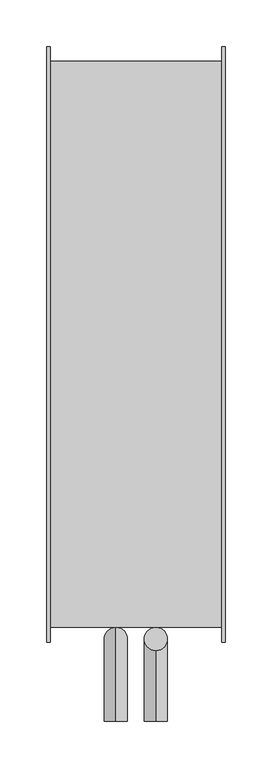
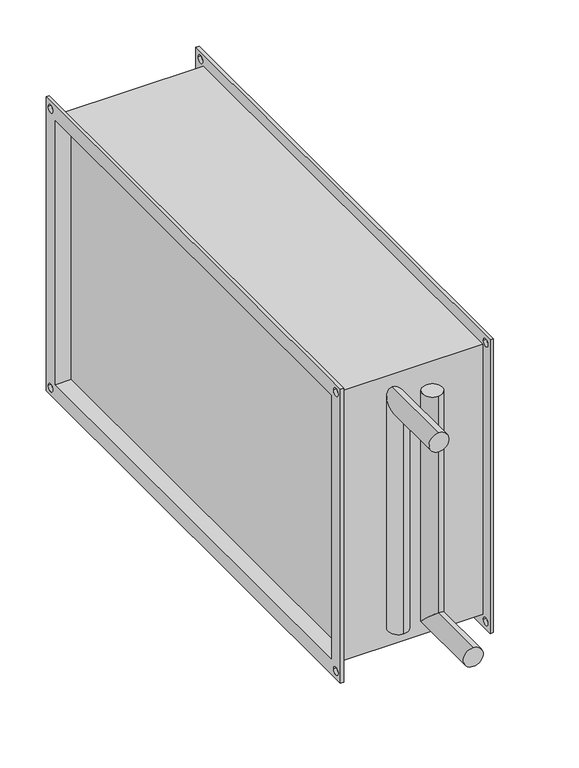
"""IFC4 building model written with IfcOpenShell, lengths in millimetres: proxy geometry, СВ_ВоздухонагревательВодяной_КанальныйПрямоугольный_200-1000_SPH-W : SPH-W-600x350/3."""

import ifcopenshell
import ifcopenshell.guid

model = None  # the IFC model being written
_history = None  # IfcOwnerHistory: only IFC2X3 demands one
_inside = {}  # id of a spatial element -> (the spatial element, [elements in it])
_under = {}  # id of a project, library or spatial element -> (it, [spatial elements below it])
_declared = {}  # id of a project -> (the project, [libraries it declares])
_typed = {}  # id of a type object -> (the type object, [elements of that type])
_made_of = {}  # id of a material, layer set ... -> (it, [elements and type objects made of it])


def new_model(schema):
    """Start an empty IFC model of exactly this schema.

    Asked for "IFC4X3", IfcOpenShell would pick the latest addendum, in which some entities
    have other attributes; the version numbers below select the first issue.
    IFC2X3 requires an IfcOwnerHistory on every rooted entity: one is made here for all.
    """
    global model, _history
    if schema == "IFC4X3":
        model = ifcopenshell.file(schema_version=(4, 3, 0, 0))
    else:
        model = ifcopenshell.file(schema=schema)
    _inside.clear()
    _under.clear()
    _declared.clear()
    _typed.clear()
    _made_of.clear()
    _history = None
    if model.schema == "IFC2X3":
        org = make("IfcOrganization", Name="unknown")
        user = make(
            "IfcPersonAndOrganization",
            ThePerson=make("IfcPerson", FamilyName="unknown"),
            TheOrganization=org,
        )
        app = make(
            "IfcApplication",
            ApplicationDeveloper=org,
            Version="unknown",
            ApplicationFullName="unknown",
            ApplicationIdentifier="unknown",
        )
        _history = make(
            "IfcOwnerHistory",
            OwningUser=user,
            OwningApplication=app,
            ChangeAction="ADDED",
            CreationDate=0,
        )
    return model


def make(cls, **values):
    """One entity of the class cls with the attributes given. An attribute that is None is left unset."""
    return model.create_entity(
        cls, **{name: value for name, value in values.items() if value is not None}
    )


def rooted(cls, **values):
    """An entity with a GlobalId (a new one), such as an element, a storey or a relation."""
    return make(cls, GlobalId=ifcopenshell.guid.new(), OwnerHistory=_history, **values)


def si_unit(unit_type, name, prefix=None):
    """IfcSIUnit, for example si_unit("LENGTHUNIT", "METRE", prefix="MILLI")."""
    return make("IfcSIUnit", UnitType=unit_type, Prefix=prefix, Name=name)


def assignment(units):
    """IfcUnitAssignment: the units of a project."""
    return None if units is None else make("IfcUnitAssignment", Units=units)


def point(xyz):
    """IfcCartesianPoint."""
    return None if xyz is None else make("IfcCartesianPoint", Coordinates=xyz)


def direction(xyz):
    """IfcDirection."""
    return None if xyz is None else make("IfcDirection", DirectionRatios=xyz)


def frame(location, z_axis=None, x_axis=None):
    """IfcAxis2Placement3D, a coordinate frame: its origin and axes. An axis left out is left unset."""
    return make(
        "IfcAxis2Placement3D",
        Location=point(location),
        Axis=direction(z_axis),
        RefDirection=direction(x_axis),
    )


def origin():
    """The frame at (0, 0, 0) with its axes left unset."""
    return frame((0.0, 0.0, 0.0))


def place(relative_to, where):
    """IfcLocalPlacement: puts the frame where relative to a parent placement (None: the world)."""
    return make(
        "IfcLocalPlacement", PlacementRelTo=relative_to, RelativePlacement=where
    )


def context(
    kind, dimensions, precision=None, world=None, true_north=None, identifier=None
):
    """IfcGeometricRepresentationContext, for example the 3D "Model" context."""
    return make(
        "IfcGeometricRepresentationContext",
        ContextIdentifier=identifier,
        ContextType=kind,
        CoordinateSpaceDimension=dimensions,
        Precision=precision,
        WorldCoordinateSystem=world,
        TrueNorth=true_north,
    )


def project(units=None, contexts=None):
    """IfcProject with its units and contexts."""
    return rooted(
        "IfcProject",
        Name="project",
        RepresentationContexts=contexts,
        UnitsInContext=assignment(units),
    )


def spatial(cls, under=None, at=None, **own):
    """A site, building, storey or space (cls), placed at a placement, below another one or the project."""
    s = rooted(cls, ObjectPlacement=at, **own)
    if under is not None:
        _under.setdefault(under.id(), (under, []))[1].append(s)
    return s


def polyline(points):
    """IfcPolyline through the points."""
    return make("IfcPolyline", Points=[point(p) for p in points])


def circle_curve(where, radius):
    """IfcCircle in the frame where."""
    return make("IfcCircle", Position=where, Radius=radius)


def ellipse_curve(where, semi_axis1, semi_axis2):
    """IfcEllipse in the frame where."""
    return make(
        "IfcEllipse", Position=where, SemiAxis1=semi_axis1, SemiAxis2=semi_axis2
    )


def shape(context_of_items, identifier, shape_type, items):
    """IfcShapeRepresentation: the items that make up one representation, for example the "Body"."""
    return make(
        "IfcShapeRepresentation",
        ContextOfItems=context_of_items,
        RepresentationIdentifier=identifier,
        RepresentationType=shape_type,
        Items=items,
    )


def source(mapping_origin, context_of_items, identifier, shape_type, items):
    """IfcRepresentationMap: a shape defined once, which mapped items show again and again."""
    return make(
        "IfcRepresentationMap",
        MappingOrigin=mapping_origin,
        MappedRepresentation=shape(context_of_items, identifier, shape_type, items),
    )


def transform(
    local_origin,
    x_axis=None,
    y_axis=None,
    z_axis=None,
    scale=None,
    scale2=None,
    scale3=None,
    uniform=True,
):
    """IfcCartesianTransformationOperator3D, or its non-uniform kind. x_axis, y_axis, z_axis: its Axis1, 2, 3."""
    if uniform:
        return make(
            "IfcCartesianTransformationOperator3D",
            Axis1=direction(x_axis),
            Axis2=direction(y_axis),
            LocalOrigin=point(local_origin),
            Scale=scale,
            Axis3=direction(z_axis),
        )
    return make(
        "IfcCartesianTransformationOperator3DnonUniform",
        Axis1=direction(x_axis),
        Axis2=direction(y_axis),
        LocalOrigin=point(local_origin),
        Scale=scale,
        Axis3=direction(z_axis),
        Scale2=scale2,
        Scale3=scale3,
    )


def mapped(mapping_source, mapping_target):
    """IfcMappedItem: shows the shape of a source again, moved by a transform."""
    return make(
        "IfcMappedItem", MappingSource=mapping_source, MappingTarget=mapping_target
    )


def made_of(thing, what):
    """Note that an element or type object is made of a material, layer set ...; save() writes the relation."""
    if what is not None:
        _made_of.setdefault(what.id(), (what, []))[1].append(thing)
    return thing


def element(
    cls,
    number,
    at=None,
    inside=None,
    cuts=None,
    type_object=None,
    material=None,
    context=None,
    identifier="Body",
    shape_type=None,
    held_by="IfcProductDefinitionShape",
    body=None,
    shapes=None,
    **own,
):
    """One element of the class cls, such as IfcWall. Its Tag is "e" and its number.

    at: its placement. inside: the storey or other place that contains it. cuts: it is an
    opening in that element (IfcRelVoidsElement). A single representation is given by context,
    identifier, shape_type and body (its items); several are given by shapes. held_by: the class
    of the entity that holds the representations. save() writes the other relations.
    """
    e = rooted(cls, Tag="e%d" % number, ObjectPlacement=at, **own)
    if body is not None:
        shapes = [shape(context, identifier, shape_type, body)]
    if shapes is not None:
        e.Representation = make(held_by, Representations=shapes)
    if inside is not None:
        _inside.setdefault(inside.id(), (inside, []))[1].append(e)
    if cuts is not None:
        rooted(
            "IfcRelVoidsElement", RelatingBuildingElement=cuts, RelatedOpeningElement=e
        )
    if type_object is not None:
        _typed.setdefault(type_object.id(), (type_object, []))[1].append(e)
    return made_of(e, material)


def aggregate(whole, parts):
    """IfcRelAggregates: a whole, such as a stair, and the parts it consists of."""
    return rooted("IfcRelAggregates", RelatingObject=whole, RelatedObjects=parts)


def save(model, path):
    """Write the relations noted so far, then the file.

    IfcRelAggregates (storeys below a building ...), IfcRelContainedInSpatialStructure (elements
    in a storey), IfcRelDefinesByType, IfcRelAssociatesMaterial and IfcRelDeclares: one each for
    every whole, place, type object, material and project.
    """
    for whole, parts in _under.values():
        aggregate(whole, parts)
    for where, things in _inside.values():
        rooted(
            "IfcRelContainedInSpatialStructure",
            RelatedElements=things,
            RelatingStructure=where,
        )
    for kind, things in _typed.values():
        rooted("IfcRelDefinesByType", RelatedObjects=things, RelatingType=kind)
    for what, things in _made_of.values():
        rooted("IfcRelAssociatesMaterial", RelatedObjects=things, RelatingMaterial=what)
    for by, libraries in _declared.values():
        rooted("IfcRelDeclares", RelatingContext=by, RelatedDefinitions=libraries)
    model.write(path)


def plane_surface(at):
    """IfcPlane: the flat surface through the origin of the frame at, square to its z axis."""
    return make("IfcPlane", Position=at)


def cylinder_surface(at, radius):
    """IfcCylindricalSurface: all points at the distance radius from the z axis of the frame at."""
    return make("IfcCylindricalSurface", Position=at, Radius=radius)


def revolved_surface(curve, axis_point, axis_direction):
    """IfcSurfaceOfRevolution: the curve turned about the line through axis_point along axis_direction."""
    return make(
        "IfcSurfaceOfRevolution",
        SweptCurve=make("IfcArbitraryOpenProfileDef", ProfileType="CURVE", Curve=curve),
        AxisPosition=make("IfcAxis1Placement", Location=point(axis_point), Axis=direction(axis_direction)),
    )


def advanced_brep(points, edges, surfaces, faces):
    """IfcAdvancedBrep: a solid bounded by faces that lie on surfaces and meet in shared edges.

    An edge is (start, end): straight between two places in points (the first is 0);
    or (start, end, curve); or (start, end, curve, False) where it runs against its curve.
    A face is (place in surfaces, loops), or (place, loops, False) where it looks against
    its surface's normal. A loop lists edges by number (the first is 1), with a minus sign
    where the edge is run from its end to its start. The first loop is the outer one.
    """
    corners = [point(p) for p in points]
    vertices = [make("IfcVertexPoint", VertexGeometry=c) for c in corners]
    made = []
    for start, end, *more in edges:
        made.append(
            make(
                "IfcEdgeCurve",
                EdgeStart=vertices[start],
                EdgeEnd=vertices[end],
                EdgeGeometry=more[0] if more else make("IfcPolyline", Points=[corners[start], corners[end]]),
                SameSense=more[1] if len(more) > 1 else True,
            )
        )
    hull = []
    for where, loops, *sense in faces:
        bounds = []
        for j, loop in enumerate(loops):
            ring = [make("IfcOrientedEdge", EdgeElement=made[abs(k) - 1], Orientation=k > 0) for k in loop]
            bounds.append(
                make(
                    "IfcFaceOuterBound" if j == 0 else "IfcFaceBound",
                    Bound=make("IfcEdgeLoop", EdgeList=ring),
                    Orientation=True,
                )
            )
        hull.append(make("IfcAdvancedFace", Bounds=bounds, FaceSurface=surfaces[where], SameSense=sense[0] if sense else True))
    return make("IfcAdvancedBrep", Outer=make("IfcClosedShell", CfsFaces=hull))


def mechanical_equipment_64b5c840(model_context):
    return source(origin(), model_context, "Body", "AdvancedBrep", [
        advanced_brep(
        [(21.5, -304.0, 150.0), (21.5, -329.0, 150.0), (21.5, -304.0, -162.5), (21.5, -329.0, -137.5), (21.5, -405.0, -162.5), (21.5, -405.0, -137.5)],
        [
            (0, 1, circle_curve(frame((21.5, -316.5, 150.0), z_axis=(0.0, 0.0, 1.0), x_axis=(0.0, -1.0, 0.0)), 12.5)),
            (1, 0, circle_curve(frame((21.5, -316.5, 150.0), z_axis=(0.0, 0.0, 1.0), x_axis=(0.0, -1.0, 0.0)), 12.5)),
            (0, 2),
            (2, 3, ellipse_curve(frame((21.5, -316.5, -150.0), z_axis=(0.0, 0.7071067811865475, 0.7071067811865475), x_axis=(0.0, -0.7071067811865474, 0.7071067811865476)), 17.6776695, 12.5)),
            (3, 1),
            (3, 2, ellipse_curve(frame((21.5, -316.5, -150.0), z_axis=(0.0, 0.7071067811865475, 0.7071067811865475), x_axis=(0.0, -0.7071067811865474, 0.7071067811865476)), 17.6776695, 12.5)),
            (4, 5, circle_curve(frame((21.5, -405.0, -150.0), z_axis=(0.0, -1.0, 0.0), x_axis=(0.0, 0.0, 1.0)), 12.5)),
            (5, 4, circle_curve(frame((21.5, -405.0, -150.0), z_axis=(0.0, -1.0, 0.0), x_axis=(0.0, 0.0, 1.0)), 12.5)),
            (2, 4),
            (5, 3),
        ],
        [
            plane_surface(frame((21.5, -316.5, 150.0), z_axis=(0.0, 0.0, 1.0), x_axis=(-1.0, 0.0, 0.0))),
            cylinder_surface(frame((21.5, -316.5, 150.0), z_axis=(0.0, 0.0, 1.0), x_axis=(0.0, -1.0, 0.0)), 12.5),
            plane_surface(frame((21.5, -405.0, -150.0), z_axis=(0.0, -1.0, 0.0), x_axis=(-1.0, 0.0, 0.0))),
            cylinder_surface(frame((21.5, -316.5, -150.0), z_axis=(0.0, 1.0, 0.0), x_axis=(0.0, 0.0, 1.0)), 12.5),
        ],
        [
            (0, [[1, 2]]),
            (1, [[-1, 3, 4, 5]]),
            (1, [[-2, -5, 6, -3]]),
            (2, [[7, 8]]),
            (3, [[-4, 9, -8, 10]]),
            (3, [[-6, -10, -7, -9]]),
        ],
    ),
        advanced_brep(
        [(-21.5, -304.0, -150.0), (-21.5, -329.0, -150.0), (-21.5, -304.0, 162.5), (-21.5, -329.0, 137.5), (-21.5, -405.0, 162.5), (-21.5, -405.0, 137.5)],
        [
            (0, 1, circle_curve(frame((-21.5, -316.5, -150.0), z_axis=(0.0, 0.0, -1.0), x_axis=(0.0, -1.0, 0.0)), 12.5)),
            (1, 0, circle_curve(frame((-21.5, -316.5, -150.0), z_axis=(0.0, 0.0, -1.0), x_axis=(0.0, -1.0, 0.0)), 12.5)),
            (0, 2),
            (2, 3, ellipse_curve(frame((-21.5, -316.5, 150.0), z_axis=(0.0, 0.7071067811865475, -0.7071067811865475), x_axis=(0.0, -0.7071067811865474, -0.7071067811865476)), 17.6776695, 12.5)),
            (3, 1),
            (3, 2, ellipse_curve(frame((-21.5, -316.5, 150.0), z_axis=(0.0, 0.7071067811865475, -0.7071067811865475), x_axis=(0.0, -0.7071067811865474, -0.7071067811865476)), 17.6776695, 12.5)),
            (4, 5, circle_curve(frame((-21.5, -405.0, 150.0), z_axis=(0.0, -1.0, 0.0), x_axis=(0.0, 0.0, -1.0)), 12.5)),
            (5, 4, circle_curve(frame((-21.5, -405.0, 150.0), z_axis=(0.0, -1.0, 0.0), x_axis=(0.0, 0.0, -1.0)), 12.5)),
            (2, 4),
            (5, 3),
        ],
        [
            plane_surface(frame((-21.5, -316.5, -150.0), z_axis=(0.0, 0.0, -1.0), x_axis=(1.0, 0.0, 0.0))),
            cylinder_surface(frame((-21.5, -316.5, -150.0), z_axis=(0.0, 0.0, -1.0), x_axis=(0.0, -1.0, 0.0)), 12.5),
            plane_surface(frame((-21.5, -405.0, 150.0), z_axis=(0.0, -1.0, 0.0), x_axis=(1.0, 0.0, 0.0))),
            cylinder_surface(frame((-21.5, -316.5, 150.0), z_axis=(0.0, 1.0, 0.0), x_axis=(0.0, 0.0, -1.0)), 12.5),
        ],
        [
            (0, [[1, 2]]),
            (1, [[-1, 3, 4, 5]]),
            (1, [[-2, -5, 6, -3]]),
            (2, [[7, 8]]),
            (3, [[-4, 9, -8, 10]]),
            (3, [[-6, -10, -7, -9]]),
        ],
    ),
        advanced_brep(
        [(-92.0, -304.0, 179.0), (-92.0, -304.0, -179.0), (92.0, -304.0, -179.0), (92.0, -304.0, 179.0), (-92.0, 304.0, -179.0), (92.0, 304.0, -179.0), (-92.0, 304.0, 179.0), (92.0, 304.0, 179.0), (76.0, 300.0, -175.0), (76.0, 300.0, 175.0), (76.0, -300.0, 175.0), (76.0, -300.0, -175.0), (-76.0, -300.0, 175.0), (-76.0, 300.0, 175.0), (-76.0, 300.0, -175.0), (-76.0, -300.0, -175.0), (-96.0, -320.0, 195.0), (-96.0, 320.0, 195.0), (-96.0, 320.0, -195.0), (-96.0, -320.0, -195.0), (-96.0, -300.0, 175.0), (-96.0, -300.0, -175.0), (-96.0, 300.0, -175.0), (-96.0, 300.0, 175.0), (-96.0, 305.0, 185.0), (-96.0, 315.0, 185.0), (-96.0, -315.0, 185.0), (-96.0, -305.0, 185.0), (-96.0, -315.0, -185.0), (-96.0, -305.0, -185.0), (-96.0, 305.0, -185.0), (-96.0, 315.0, -185.0), (-92.0, -320.0, 195.0), (-92.0, -320.0, -195.0), (-92.0, 320.0, -195.0), (-92.0, 320.0, 195.0), (-92.0, 315.0, 185.0), (-92.0, 305.0, 185.0), (-92.0, -305.0, 185.0), (-92.0, -315.0, 185.0), (-92.0, -305.0, -185.0), (-92.0, -315.0, -185.0), (-92.0, 315.0, -185.0), (-92.0, 305.0, -185.0), (92.0, 320.0, 195.0), (92.0, 320.0, -195.0), (92.0, -320.0, -195.0), (92.0, -320.0, 195.0), (92.0, 305.0, 185.0), (92.0, 315.0, 185.0), (92.0, -315.0, 185.0), (92.0, -305.0, 185.0), (92.0, -315.0, -185.0), (92.0, -305.0, -185.0), (92.0, 305.0, -185.0), (92.0, 315.0, -185.0), (96.0, 320.0, 195.0), (96.0, -320.0, 195.0), (96.0, -320.0, -195.0), (96.0, 320.0, -195.0), (96.0, 300.0, 175.0), (96.0, 300.0, -175.0), (96.0, -300.0, -175.0), (96.0, -300.0, 175.0), (96.0, 315.0, 185.0), (96.0, 305.0, 185.0), (96.0, -305.0, 185.0), (96.0, -315.0, 185.0), (96.0, -305.0, -185.0), (96.0, -315.0, -185.0), (96.0, 315.0, -185.0), (96.0, 305.0, -185.0)],
        [
            (0, 1),
            (1, 2),
            (2, 3),
            (3, 0),
            (1, 4),
            (4, 5),
            (5, 2),
            (4, 6),
            (6, 7),
            (7, 5),
            (6, 0),
            (3, 7),
            (8, 9),
            (9, 10),
            (10, 11),
            (11, 8),
            (12, 13),
            (13, 14),
            (14, 15),
            (15, 12),
            (16, 17),
            (17, 18),
            (18, 19),
            (19, 16),
            (20, 21),
            (21, 22),
            (22, 23),
            (23, 20),
            (24, 25, circle_curve(frame((-96.0, 310.0, 185.0), z_axis=(1.0, 0.0, 0.0), x_axis=(0.0, -1.0, 0.0)), 5.0)),
            (25, 24, circle_curve(frame((-96.0, 310.0, 185.0), z_axis=(1.0, 0.0, 0.0), x_axis=(0.0, -1.0, 0.0)), 5.0)),
            (26, 27, circle_curve(frame((-96.0, -310.0, 185.0), z_axis=(1.0, 0.0, 0.0), x_axis=(0.0, -1.0, 0.0)), 5.0)),
            (27, 26, circle_curve(frame((-96.0, -310.0, 185.0), z_axis=(1.0, 0.0, 0.0), x_axis=(0.0, -1.0, 0.0)), 5.0)),
            (28, 29, circle_curve(frame((-96.0, -310.0, -185.0), z_axis=(1.0, 0.0, 0.0), x_axis=(0.0, -1.0, 0.0)), 5.0)),
            (29, 28, circle_curve(frame((-96.0, -310.0, -185.0), z_axis=(1.0, 0.0, 0.0), x_axis=(0.0, -1.0, 0.0)), 5.0)),
            (30, 31, circle_curve(frame((-96.0, 310.0, -185.0), z_axis=(1.0, 0.0, 0.0), x_axis=(0.0, -1.0, 0.0)), 5.0)),
            (31, 30, circle_curve(frame((-96.0, 310.0, -185.0), z_axis=(1.0, 0.0, 0.0), x_axis=(0.0, -1.0, 0.0)), 5.0)),
            (32, 33),
            (33, 34),
            (34, 35),
            (35, 32),
            (36, 37, circle_curve(frame((-92.0, 310.0, 185.0), z_axis=(-1.0, 0.0, 0.0), x_axis=(0.0, -1.0, 0.0)), 5.0)),
            (37, 36, circle_curve(frame((-92.0, 310.0, 185.0), z_axis=(-1.0, 0.0, 0.0), x_axis=(0.0, -1.0, 0.0)), 5.0)),
            (38, 39, circle_curve(frame((-92.0, -310.0, 185.0), z_axis=(-1.0, 0.0, 0.0), x_axis=(0.0, -1.0, 0.0)), 5.0)),
            (39, 38, circle_curve(frame((-92.0, -310.0, 185.0), z_axis=(-1.0, 0.0, 0.0), x_axis=(0.0, -1.0, 0.0)), 5.0)),
            (40, 41, circle_curve(frame((-92.0, -310.0, -185.0), z_axis=(-1.0, 0.0, 0.0), x_axis=(0.0, -1.0, 0.0)), 5.0)),
            (41, 40, circle_curve(frame((-92.0, -310.0, -185.0), z_axis=(-1.0, 0.0, 0.0), x_axis=(0.0, -1.0, 0.0)), 5.0)),
            (42, 43, circle_curve(frame((-92.0, 310.0, -185.0), z_axis=(-1.0, 0.0, 0.0), x_axis=(0.0, -1.0, 0.0)), 5.0)),
            (43, 42, circle_curve(frame((-92.0, 310.0, -185.0), z_axis=(-1.0, 0.0, 0.0), x_axis=(0.0, -1.0, 0.0)), 5.0)),
            (19, 33),
            (32, 16),
            (18, 34),
            (17, 35),
            (44, 45),
            (45, 46),
            (46, 47),
            (47, 44),
            (48, 49, circle_curve(frame((92.0, 310.0, 185.0), z_axis=(1.0, 0.0, 0.0), x_axis=(0.0, -1.0, 0.0)), 5.0)),
            (49, 48, circle_curve(frame((92.0, 310.0, 185.0), z_axis=(1.0, 0.0, 0.0), x_axis=(0.0, -1.0, 0.0)), 5.0)),
            (50, 51, circle_curve(frame((92.0, -310.0, 185.0), z_axis=(1.0, 0.0, 0.0), x_axis=(0.0, -1.0, 0.0)), 5.0)),
            (51, 50, circle_curve(frame((92.0, -310.0, 185.0), z_axis=(1.0, 0.0, 0.0), x_axis=(0.0, -1.0, 0.0)), 5.0)),
            (52, 53, circle_curve(frame((92.0, -310.0, -185.0), z_axis=(1.0, 0.0, 0.0), x_axis=(0.0, -1.0, 0.0)), 5.0)),
            (53, 52, circle_curve(frame((92.0, -310.0, -185.0), z_axis=(1.0, 0.0, 0.0), x_axis=(0.0, -1.0, 0.0)), 5.0)),
            (54, 55, circle_curve(frame((92.0, 310.0, -185.0), z_axis=(1.0, 0.0, 0.0), x_axis=(0.0, -1.0, 0.0)), 5.0)),
            (55, 54, circle_curve(frame((92.0, 310.0, -185.0), z_axis=(1.0, 0.0, 0.0), x_axis=(0.0, -1.0, 0.0)), 5.0)),
            (56, 57),
            (57, 58),
            (58, 59),
            (59, 56),
            (60, 61),
            (61, 62),
            (62, 63),
            (63, 60),
            (64, 65, circle_curve(frame((96.0, 310.0, 185.0), z_axis=(-1.0, 0.0, 0.0), x_axis=(0.0, -1.0, 0.0)), 5.0)),
            (65, 64, circle_curve(frame((96.0, 310.0, 185.0), z_axis=(-1.0, 0.0, 0.0), x_axis=(0.0, -1.0, 0.0)), 5.0)),
            (66, 67, circle_curve(frame((96.0, -310.0, 185.0), z_axis=(-1.0, 0.0, 0.0), x_axis=(0.0, -1.0, 0.0)), 5.0)),
            (67, 66, circle_curve(frame((96.0, -310.0, 185.0), z_axis=(-1.0, 0.0, 0.0), x_axis=(0.0, -1.0, 0.0)), 5.0)),
            (68, 69, circle_curve(frame((96.0, -310.0, -185.0), z_axis=(-1.0, 0.0, 0.0), x_axis=(0.0, -1.0, 0.0)), 5.0)),
            (69, 68, circle_curve(frame((96.0, -310.0, -185.0), z_axis=(-1.0, 0.0, 0.0), x_axis=(0.0, -1.0, 0.0)), 5.0)),
            (70, 71, circle_curve(frame((96.0, 310.0, -185.0), z_axis=(-1.0, 0.0, 0.0), x_axis=(0.0, -1.0, 0.0)), 5.0)),
            (71, 70, circle_curve(frame((96.0, 310.0, -185.0), z_axis=(-1.0, 0.0, 0.0), x_axis=(0.0, -1.0, 0.0)), 5.0)),
            (47, 57),
            (56, 44),
            (46, 58),
            (45, 59),
            (23, 13),
            (12, 20),
            (22, 14),
            (21, 15),
            (60, 9),
            (8, 61),
            (11, 62),
            (10, 63),
            (36, 25),
            (24, 37),
            (64, 49),
            (48, 65),
            (38, 27),
            (26, 39),
            (66, 51),
            (50, 67),
            (40, 29),
            (28, 41),
            (68, 53),
            (52, 69),
            (42, 31),
            (30, 43),
            (70, 55),
            (54, 71),
        ],
        [
            plane_surface(frame((-76.0, -304.0, 179.0), z_axis=(0.0, -1.0, 0.0), x_axis=(-1.0, 0.0, 0.0))),
            plane_surface(frame((-76.0, -304.0, -179.0), z_axis=(0.0, 0.0, -1.0), x_axis=(-1.0, 0.0, 0.0))),
            plane_surface(frame((-76.0, 304.0, -179.0), z_axis=(0.0, 1.0, 0.0), x_axis=(-1.0, 0.0, 0.0))),
            plane_surface(frame((-76.0, 304.0, 179.0), z_axis=(0.0, 0.0, 1.0), x_axis=(-1.0, 0.0, 0.0))),
            plane_surface(frame((76.0, -304.0, 179.0), z_axis=(1.0, 0.0, 0.0), x_axis=(0.0, 0.0, -1.0))),
            plane_surface(frame((-76.0, -304.0, 179.0), z_axis=(-1.0, 0.0, 0.0), x_axis=(0.0, 0.0, 1.0))),
            plane_surface(frame((-96.0, -320.0, 195.0), z_axis=(-1.0, 0.0, 0.0), x_axis=(0.0, 0.0, 1.0))),
            plane_surface(frame((-92.0, -320.0, 195.0), z_axis=(1.0, 0.0, 0.0), x_axis=(0.0, 0.0, -1.0))),
            plane_surface(frame((-92.0, -320.0, 195.0), z_axis=(0.0, -1.0, 0.0), x_axis=(-1.0, 0.0, 0.0))),
            plane_surface(frame((-92.0, -320.0, -195.0), z_axis=(0.0, 0.0, -1.0), x_axis=(-1.0, 0.0, 0.0))),
            plane_surface(frame((-92.0, 320.0, -195.0), z_axis=(0.0, 1.0, 0.0), x_axis=(-1.0, 0.0, 0.0))),
            plane_surface(frame((-92.0, 320.0, 195.0), z_axis=(0.0, 0.0, 1.0), x_axis=(-1.0, 0.0, 0.0))),
            plane_surface(frame((92.0, 300.0, -175.0), z_axis=(-1.0, 0.0, 0.0), x_axis=(0.0, 0.0, 1.0))),
            plane_surface(frame((96.0, 300.0, -175.0), z_axis=(1.0, 0.0, 0.0), x_axis=(0.0, 0.0, -1.0))),
            plane_surface(frame((96.0, 320.0, 195.0), z_axis=(0.0, 0.0, 1.0), x_axis=(-1.0, 0.0, 0.0))),
            plane_surface(frame((96.0, -320.0, 195.0), z_axis=(0.0, -1.0, 0.0), x_axis=(-1.0, 0.0, 0.0))),
            plane_surface(frame((96.0, -320.0, -195.0), z_axis=(0.0, 0.0, -1.0), x_axis=(-1.0, 0.0, 0.0))),
            plane_surface(frame((96.0, 320.0, -195.0), z_axis=(0.0, 1.0, 0.0), x_axis=(-1.0, 0.0, 0.0))),
            plane_surface(frame((-92.0, -300.0, 175.0), z_axis=(0.0, 0.0, -1.0), x_axis=(-1.0, 0.0, 0.0))),
            plane_surface(frame((-92.0, 300.0, 175.0), z_axis=(0.0, -1.0, 0.0), x_axis=(-1.0, 0.0, 0.0))),
            plane_surface(frame((-92.0, 300.0, -175.0), z_axis=(0.0, 0.0, 1.0), x_axis=(-1.0, 0.0, 0.0))),
            plane_surface(frame((-92.0, -300.0, -175.0), z_axis=(0.0, 1.0, 0.0), x_axis=(-1.0, 0.0, 0.0))),
            plane_surface(frame((96.0, 300.0, 175.0), z_axis=(0.0, -1.0, 0.0), x_axis=(-1.0, 0.0, 0.0))),
            plane_surface(frame((96.0, 300.0, -175.0), z_axis=(0.0, 0.0, 1.0), x_axis=(-1.0, 0.0, 0.0))),
            plane_surface(frame((96.0, -300.0, -175.0), z_axis=(0.0, 1.0, 0.0), x_axis=(-1.0, 0.0, 0.0))),
            plane_surface(frame((96.0, -300.0, 175.0), z_axis=(0.0, 0.0, -1.0), x_axis=(-1.0, 0.0, 0.0))),
            revolved_surface(polyline([(-96.0, 305.0, 185.0), (-92.0, 305.0, 185.0)]), (96.0, 310.0, 185.0), (-1.0, 0.0, 0.0)),
            revolved_surface(polyline([(92.0, 305.0, 185.0), (96.0, 305.0, 185.0)]), (96.0, 310.0, 185.0), (-1.0, 0.0, 0.0)),
            revolved_surface(polyline([(-96.0, -315.0, 185.0), (-92.0, -315.0, 185.0)]), (21.5, -310.0, 185.0), (-1.0, 0.0, 0.0)),
            revolved_surface(polyline([(92.0, -315.0, 185.0), (96.0, -315.0, 185.0)]), (21.5, -310.0, 185.0), (-1.0, 0.0, 0.0)),
            revolved_surface(polyline([(-96.0, -315.0, -185.0), (-92.0, -315.0, -185.0)]), (21.5, -310.0, -185.0), (-1.0, 0.0, 0.0)),
            revolved_surface(polyline([(92.0, -315.0, -185.0), (96.0, -315.0, -185.0)]), (21.5, -310.0, -185.0), (-1.0, 0.0, 0.0)),
            revolved_surface(polyline([(-96.0, 305.0, -185.0), (-92.0, 305.0, -185.0)]), (21.5, 310.0, -185.0), (-1.0, 0.0, 0.0)),
            revolved_surface(polyline([(92.0, 305.0, -185.0), (96.0, 305.0, -185.0)]), (21.5, 310.0, -185.0), (-1.0, 0.0, 0.0)),
        ],
        [
            (0, [[1, 2, 3, 4]]),
            (1, [[-2, 5, 6, 7]]),
            (2, [[-6, 8, 9, 10]]),
            (3, [[-9, 11, -4, 12]]),
            (4, [[13, 14, 15, 16]]),
            (5, [[17, 18, 19, 20]]),
            (6, [[21, 22, 23, 24], [25, 26, 27, 28], [29, 30], [31, 32], [33, 34], [35, 36]]),
            (7, [[37, 38, 39, 40], [-1, -11, -8, -5], [41, 42], [43, 44], [45, 46], [47, 48]]),
            (8, [[-24, 49, -37, 50]]),
            (9, [[-23, 51, -38, -49]]),
            (10, [[-22, 52, -39, -51]]),
            (11, [[-21, -50, -40, -52]]),
            (12, [[53, 54, 55, 56], [-3, -7, -10, -12], [57, 58], [59, 60], [61, 62], [63, 64]]),
            (13, [[65, 66, 67, 68], [69, 70, 71, 72], [73, 74], [75, 76], [77, 78], [79, 80]]),
            (14, [[-56, 81, -65, 82]]),
            (15, [[-55, 83, -66, -81]]),
            (16, [[-54, 84, -67, -83]]),
            (17, [[-53, -82, -68, -84]]),
            (18, [[-28, 85, -17, 86]]),
            (19, [[-27, 87, -18, -85]]),
            (20, [[-26, 88, -19, -87]]),
            (21, [[-25, -86, -20, -88]]),
            (22, [[-69, 89, -13, 90]]),
            (23, [[-70, -90, -16, 91]]),
            (24, [[-71, -91, -15, 92]]),
            (25, [[-89, -72, -92, -14]]),
            (26, [[93, -29, 94, -41]]),
            (27, [[95, -57, 96, -73]]),
            (26, [[-93, -42, -94, -30]]),
            (27, [[-95, -74, -96, -58]]),
            (28, [[97, -31, 98, -43]]),
            (29, [[99, -59, 100, -75]]),
            (28, [[-97, -44, -98, -32]]),
            (29, [[-99, -76, -100, -60]]),
            (30, [[101, -33, 102, -45]]),
            (31, [[103, -61, 104, -77]]),
            (30, [[-101, -46, -102, -34]]),
            (31, [[-103, -78, -104, -62]]),
            (32, [[105, -35, 106, -47]]),
            (33, [[107, -63, 108, -79]]),
            (32, [[-105, -48, -106, -36]]),
            (33, [[-107, -80, -108, -64]]),
        ],
    ),
    ])


if __name__ == "__main__":
    model = new_model("IFC4")
    model_context = context("Model", 3, world=origin())
    ifc_project = project(units=[si_unit("LENGTHUNIT", "METRE", prefix="MILLI")], contexts=[model_context])
    site = spatial("IfcSite", under=ifc_project)
    building = spatial("IfcBuilding", under=site)
    placement = place(None, origin())
    mechanical_equipment_shape = mechanical_equipment_64b5c840(model_context)
    element("IfcBuildingElementProxy", 1, Name="СВ_ВоздухонагревательВодяной_КанальныйПрямоугольный_200-1000_SPH-W : SPH-W-600x350/3", ObjectType="СВ_ВоздухонагревательВодяной_КанальныйПрямоугольный_200-1000_SPH-W : SPH-W-600x350/3", at=placement, inside=building, context=model_context, shape_type="MappedRepresentation", body=[
        mapped(mechanical_equipment_shape, transform((0.0, 0.0, 0.0), x_axis=(1.0, 0.0, 0.0), y_axis=(0.0, 1.0, 0.0), z_axis=(0.0, 0.0, 1.0))),
    ])
    save(model, "model.ifc")
